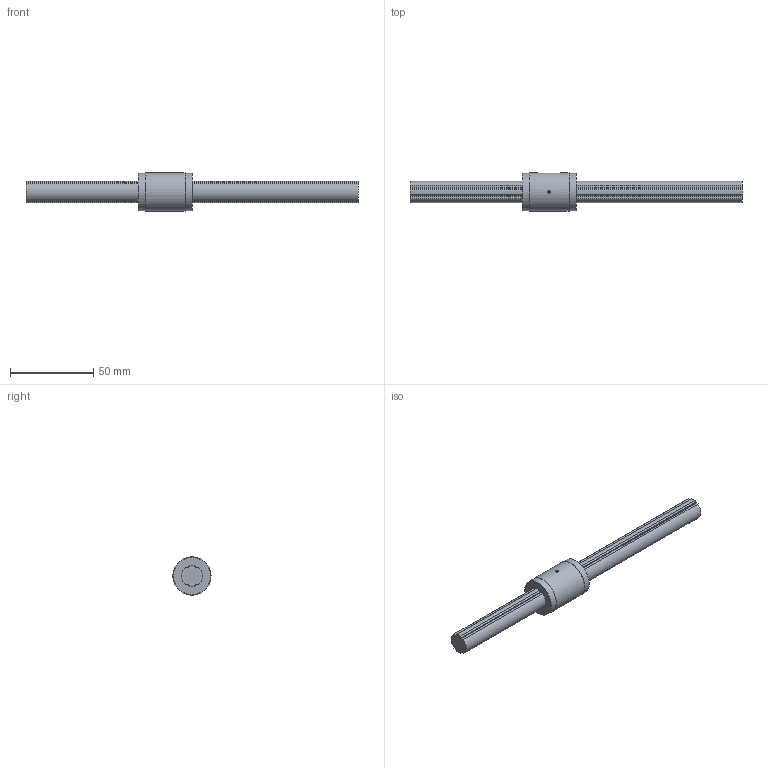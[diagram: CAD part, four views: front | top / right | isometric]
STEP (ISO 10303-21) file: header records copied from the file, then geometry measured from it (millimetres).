
FILE_DESCRIPTION(/* description */ ('STEP AP214'),/* implementation_level */ '2;1');
FILE_NAME(/* name */ 'LT13X+200L(00)',/* time_stamp */ '2024-09-05T14:15:32+02:00',/* author */ ('License CC BY-ND 4.0'),/* organization */ ('CADENAS'),/* preprocessor_version */ 'ST-DEVELOPER v19.3',/* originating_system */ 'PARTsolutions',/* authorisation */ ' ');
FILE_SCHEMA (('AUTOMOTIVE_DESIGN {1 0 10303 214 3 1 1}'));
Length unit declared in the file: millimetre
Products named in the file (3): LT13X+200L(00); 1LT13X 200Shaft; 1LT13X Cylindar
Assembly tree (2 placements, depth 2):
  LT13X+200L(00)
    1LT13X 200Shaft
    1LT13X Cylindar
Bounding box: 200 x 23 x 23 mm (x, y, z)
Volume: 34583.2 mm3; surface area: 13055.2 mm2
Topology: 2 solids, 2 shells, 64 faces, 173 edges, 115 vertices
Faces by surface type: cylinder 39, plane 25
Full cylindrical faces by diameter (mm): 1.5 x2, 22.6 x2, 23 x1
Entity records: 2129 total; most frequent: CARTESIAN_POINT 399, DIRECTION 366, ORIENTED_EDGE 332, EDGE_CURVE 166, AXIS2_PLACEMENT_3D 139, VERTEX_POINT 114, LINE 88, VECTOR 88
